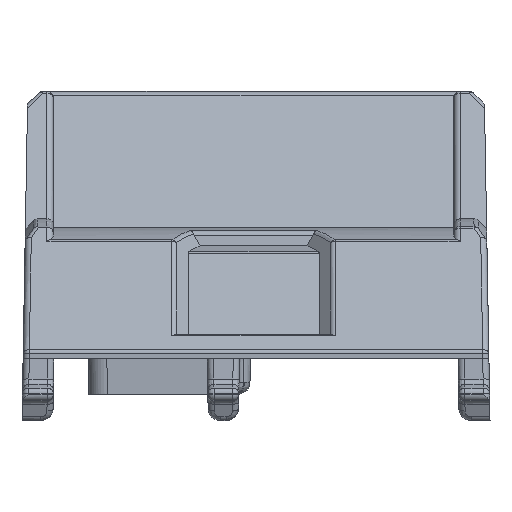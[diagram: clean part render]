
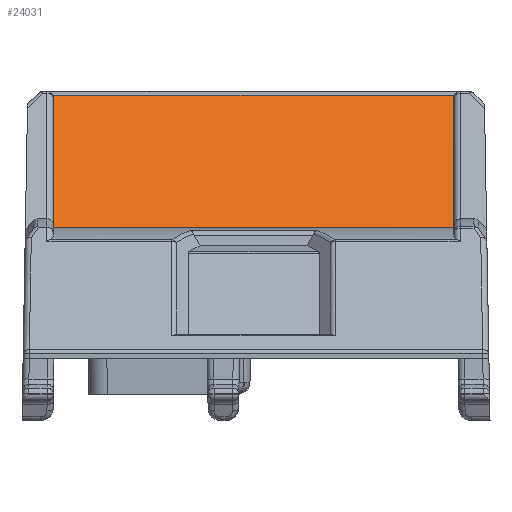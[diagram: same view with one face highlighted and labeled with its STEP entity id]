
A CAD part, front view. The second image highlights one B-rep face of the part: STEP entity #24031.
In plain terms, the highlighted planar face has unit normal (0, -0.707, 0.707).
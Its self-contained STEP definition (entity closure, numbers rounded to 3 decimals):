
#1493 = VERTEX_POINT ( 'NONE', #16359 ) ;
#1772 = VERTEX_POINT ( 'NONE', #16154 ) ;
#1850 = VERTEX_POINT ( 'NONE', #16396 ) ;
#2177 = VERTEX_POINT ( 'NONE', #16039 ) ;
#2314 = VERTEX_POINT ( 'NONE', #16477 ) ;
#2498 = VERTEX_POINT ( 'NONE', #25417 ) ;
#5085 = EDGE_LOOP ( 'NONE', ( #14813, #14949, #18936, #19002, #18582, #18905 ) ) ;
#6940 = EDGE_CURVE ( 'NONE', #1493, #2498, #16853, .T. ) ;
#6942 = EDGE_CURVE ( 'NONE', #1493, #2177, #15966, .T. ) ;
#6943 = EDGE_CURVE ( 'NONE', #2177, #2314, #17038, .T. ) ;
#6944 = EDGE_CURVE ( 'NONE', #2314, #1772, #15958, .T. ) ;
#6970 = EDGE_CURVE ( 'NONE', #2498, #1850, #17104, .T. ) ;
#9272 = VECTOR ( 'NONE', #17054, 1000. ) ;
#9291 = VECTOR ( 'NONE', #17096, 1000. ) ;
#9436 = VECTOR ( 'NONE', #16765, 1000. ) ;
#14813 = ORIENTED_EDGE ( 'NONE', *, *, #6940, .F. ) ;
#14949 = ORIENTED_EDGE ( 'NONE', *, *, #6942, .T. ) ;
#15958 =( BOUNDED_CURVE ( )  B_SPLINE_CURVE ( 3, ( #16838, #16876, #16824, #16978 ),
 .UNSPECIFIED., .F., .T. ) 
 B_SPLINE_CURVE_WITH_KNOTS ( ( 4, 4 ),
 ( 1.144, 1.571 ),
 .UNSPECIFIED. ) 
 CURVE ( )  GEOMETRIC_REPRESENTATION_ITEM ( )  RATIONAL_B_SPLINE_CURVE ( ( 1., 0.985, 0.985, 1. ) ) 
 REPRESENTATION_ITEM ( '' )  );
#15966 =( BOUNDED_CURVE ( )  B_SPLINE_CURVE ( 3, ( #16906, #16982, #16989, #16973 ),
 .UNSPECIFIED., .F., .T. ) 
 B_SPLINE_CURVE_WITH_KNOTS ( ( 4, 4 ),
 ( 4.712, 5.139 ),
 .UNSPECIFIED. ) 
 CURVE ( )  GEOMETRIC_REPRESENTATION_ITEM ( )  RATIONAL_B_SPLINE_CURVE ( ( 1., 0.985, 0.985, 1. ) ) 
 REPRESENTATION_ITEM ( '' )  );
#16039 = CARTESIAN_POINT ( 'NONE',  ( 40.133, -10.212, 26.328 ) ) ;
#16154 = CARTESIAN_POINT ( 'NONE',  ( 7.671, -10.42, 26.121 ) ) ;
#16359 = CARTESIAN_POINT ( 'NONE',  ( 40.088, -10.42, 26.121 ) ) ;
#16396 = CARTESIAN_POINT ( 'NONE',  ( 7.671, -23.42, 13.121 ) ) ;
#16477 = CARTESIAN_POINT ( 'NONE',  ( 7.626, -10.212, 26.328 ) ) ;
#16729 = CARTESIAN_POINT ( 'NONE',  ( 76.569, -10.212, 26.328 ) ) ;
#16765 = DIRECTION ( 'NONE',  ( -1., 0., 0. ) ) ;
#16824 = CARTESIAN_POINT ( 'NONE',  ( 7.671, -10.348, 26.193 ) ) ;
#16838 = CARTESIAN_POINT ( 'NONE',  ( 7.626, -10.212, 26.328 ) ) ;
#16853 = LINE ( 'NONE', #17100, #9272 ) ;
#16876 = CARTESIAN_POINT ( 'NONE',  ( 7.656, -10.278, 26.263 ) ) ;
#16906 = CARTESIAN_POINT ( 'NONE',  ( 40.088, -10.42, 26.121 ) ) ;
#16935 = CARTESIAN_POINT ( 'NONE',  ( 76.569, -23.42, 13.121 ) ) ;
#16973 = CARTESIAN_POINT ( 'NONE',  ( 40.133, -10.212, 26.328 ) ) ;
#16978 = CARTESIAN_POINT ( 'NONE',  ( 7.671, -10.42, 26.121 ) ) ;
#16982 = CARTESIAN_POINT ( 'NONE',  ( 40.088, -10.348, 26.193 ) ) ;
#16989 = CARTESIAN_POINT ( 'NONE',  ( 40.103, -10.278, 26.263 ) ) ;
#17038 = LINE ( 'NONE', #16729, #9436 ) ;
#17054 = DIRECTION ( 'NONE',  ( 0., -0.707, -0.707 ) ) ;
#17096 = DIRECTION ( 'NONE',  ( -1., 0., 0. ) ) ;
#17100 = CARTESIAN_POINT ( 'NONE',  ( 40.088, -14.048, 22.492 ) ) ;
#17104 = LINE ( 'NONE', #16935, #9291 ) ;
#18582 = ORIENTED_EDGE ( 'NONE', *, *, #22132, .T. ) ;
#18905 = ORIENTED_EDGE ( 'NONE', *, *, #6970, .F. ) ;
#18936 = ORIENTED_EDGE ( 'NONE', *, *, #6943, .T. ) ;
#19002 = ORIENTED_EDGE ( 'NONE', *, *, #6944, .T. ) ;
#20247 = VECTOR ( 'NONE', #26810, 1000. ) ;
#22132 = EDGE_CURVE ( 'NONE', #1772, #1850, #26808, .T. ) ;
#23549 = AXIS2_PLACEMENT_3D ( 'NONE', #27782, #27783, #27784 ) ;
#24031 = ADVANCED_FACE ( 'NONE', ( #27772 ), #27757, .F. ) ;
#25417 = CARTESIAN_POINT ( 'NONE',  ( 40.088, -23.42, 13.121 ) ) ;
#26808 = LINE ( 'NONE', #26809, #20247 ) ;
#26809 = CARTESIAN_POINT ( 'NONE',  ( 7.671, -14.048, 22.492 ) ) ;
#26810 = DIRECTION ( 'NONE',  ( 0., -0.707, -0.707 ) ) ;
#27757 = PLANE ( 'NONE',  #23549 ) ;
#27772 = FACE_OUTER_BOUND ( 'NONE', #5085, .T. ) ;
#27782 = CARTESIAN_POINT ( 'NONE',  ( 76.569, -14.048, 22.492 ) ) ;
#27783 = DIRECTION ( 'NONE',  ( 0., 0.707, -0.707 ) ) ;
#27784 = DIRECTION ( 'NONE',  ( 0., -0.707, -0.707 ) ) ;
